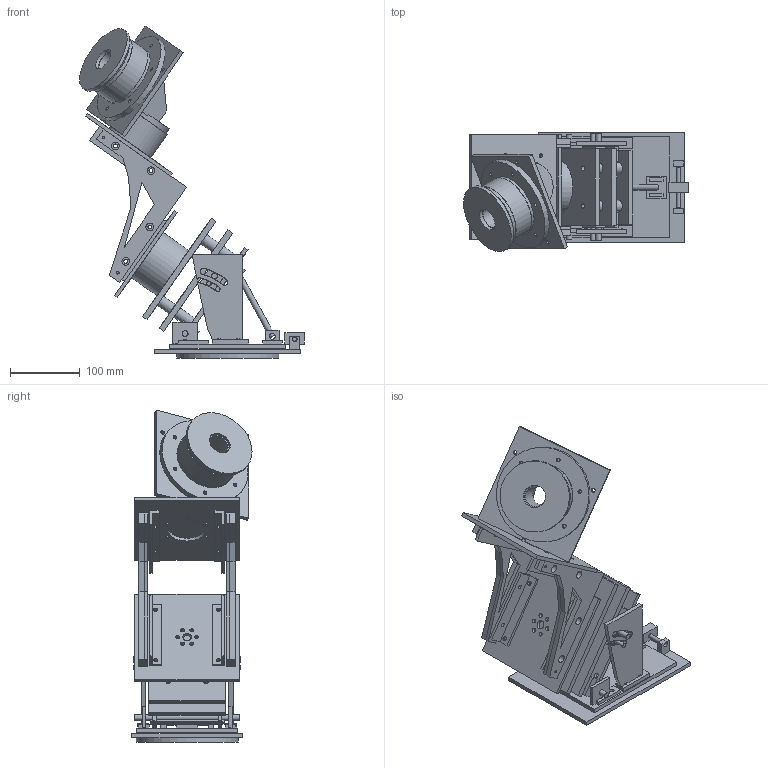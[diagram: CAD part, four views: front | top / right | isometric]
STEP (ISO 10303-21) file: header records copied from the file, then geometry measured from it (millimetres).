
FILE_DESCRIPTION(('Open CASCADE Model'),'2;1');
FILE_NAME('Open CASCADE Shape Model','2026-10-21T13:45:27',('Author'),( 'Open CASCADE'),'Open CASCADE STEP processor 7.9','Open CASCADE 7.9' ,'Unknown');
FILE_SCHEMA(('AUTOMOTIVE_DESIGN { 1 0 10303 214 1 1 1 1 }'));
Length unit declared in the file: millimetre
Products named in the file (53): V17_3AXIS_NSK7008AWDB_INTEGRATION_LAYOUT_NO_LOAD_NO_POWER; v05_hinge_lower_LEFT_METAL; v05_hinge_lower_RIGHT_METAL; v05_lower_jack_CLEVIS_METAL; v05_hinge_M8_PIN_METAL_REFERENCE; v05_altitude_M8_JACK_METAL_REFERENCE; v05_az_push_screw_-1_METAL_REFERENCE; v05_az_push_screw_1_METAL_REFERENCE; TRIPOD_FIXED_MAIN_BASE; v06_az_deck_WITH_LOCK_M6_HOLES_METAL; v06_tripod_PCD62_M10_GENERIC_METAL; v06_lock_sector_LEFT_METAL; v06_upper_lock_lug_LEFT_METAL; v06_M8_clamp_pin_LEFT_METAL_ENVELOPE; v06_M6_stop_pin_LEFT_METAL_ENVELOPE; v06_lock_sector_RIGHT_METAL; v06_upper_lock_lug_RIGHT_METAL; v06_M8_clamp_pin_RIGHT_METAL_ENVELOPE; v06_M6_stop_pin_RIGHT_METAL_ENVELOPE; v07_wedge_RA_STATOR_BASE_METAL; v07_WEDGE_REPLACEMENT_TOP_DECK_METAL; v07_RA_STATOR_REAR_FLANGE_METAL; v07_RA_RISER_1_METAL; v07_RA_LOWER_POST_1_METAL; v07_RA_RISER_2_METAL; v07_RA_LOWER_POST_2_METAL; v07_RA_RISER_3_METAL; v07_RA_LOWER_POST_3_METAL; v07_RA_RISER_4_METAL; v07_RA_LOWER_POST_4_METAL; RA_HARMONIC_GEARBOX_ENVELOPE_NOT_PURCHASED; v04_ra_output_plate_METAL; v04_dec_rear_plate_METAL; v04_left_side_web_METAL; v04_right_side_web_METAL; v04_left_ra_angle_METAL; v04_right_ra_angle_METAL; v04_left_dec_angle_METAL; v04_right_dec_angle_METAL; DEC_HARMONIC_GEARBOX_ENVELOPE_NOT_PURCHASED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
Assembly tree (52 placements, depth 2):
  V17_3AXIS_NSK7008AWDB_INTEGRATION_LAYOUT_NO_LOAD_NO_POWER
    v05_hinge_lower_LEFT_METAL
    v05_hinge_lower_RIGHT_METAL
    v05_lower_jack_CLEVIS_METAL
    v05_hinge_M8_PIN_METAL_REFERENCE
    v05_altitude_M8_JACK_METAL_REFERENCE
    v05_az_push_screw_-1_METAL_REFERENCE
    v05_az_push_screw_1_METAL_REFERENCE
    TRIPOD_FIXED_MAIN_BASE
    v06_az_deck_WITH_LOCK_M6_HOLES_METAL
    v06_tripod_PCD62_M10_GENERIC_METAL
    v06_lock_sector_LEFT_METAL
    v06_upper_lock_lug_LEFT_METAL
    v06_M8_clamp_pin_LEFT_METAL_ENVELOPE
    v06_M6_stop_pin_LEFT_METAL_ENVELOPE
    v06_lock_sector_RIGHT_METAL
    v06_upper_lock_lug_RIGHT_METAL
    v06_M8_clamp_pin_RIGHT_METAL_ENVELOPE
    v06_M6_stop_pin_RIGHT_METAL_ENVELOPE
    v07_wedge_RA_STATOR_BASE_METAL
    v07_WEDGE_REPLACEMENT_TOP_DECK_METAL
    v07_RA_STATOR_REAR_FLANGE_METAL
    v07_RA_RISER_1_METAL
    v07_RA_LOWER_POST_1_METAL
    v07_RA_RISER_2_METAL
    v07_RA_LOWER_POST_2_METAL
    v07_RA_RISER_3_METAL
    v07_RA_LOWER_POST_3_METAL
    v07_RA_RISER_4_METAL
    v07_RA_LOWER_POST_4_METAL
    RA_HARMONIC_GEARBOX_ENVELOPE_NOT_PURCHASED
    v04_ra_output_plate_METAL
    v04_dec_rear_plate_METAL
    v04_left_side_web_METAL
    v04_right_side_web_METAL
    v04_left_ra_angle_METAL
    v04_right_ra_angle_METAL
    v04_left_dec_angle_METAL
    v04_right_dec_angle_METAL
    DEC_HARMONIC_GEARBOX_ENVELOPE_NOT_PURCHASED
    v04_cheek_left_PRINT_FLAT_ASSEMBLY_POSITION
    v04_cheek_right_PRINT_FLAT_ASSEMBLY_POSITION
    v11_DEC_OUTPUT_TO_ROT_CONTINUOUS_METAL_BRIDGE_UNQUALIFIED
    v17_METAL_PCD110_TO_PCD80_BRIDGE_ADAPTER_UNQUALIFIED
    v17_V16_STATOR_METAL_68_2_REFERENCE_BORE_NOT_FIT
    v17_V16_LOWER_REMOVABLE_METAL_OUTER_RING_CAP
    v17_V16_UPPER_REMOVABLE_METAL_OUTER_RING_CAP
    v17_V16_NSK_7008AWDB_RING_1_OEM_EXTERNAL_ENVELOPE_ONLY
    v17_V16_NSK_7008AWDB_RING_2_OEM_EXTERNAL_ENVELOPE_ONLY
    v17_V16_HOLLOW_METAL_SPINDLE_WITH_INTEGRAL_48_SHOULDER_NO_TOLERANCE
    v17_V16_LOCKNUT_ENVELOPE_NO_THREAD_OR_PRELOAD
    v17_V16_FLAT_ANTI_LOOSENING_WASHER_PLACEHOLDER_NO_KEY
    v17_V16_CAMERA_FIXTURE_INTERFACE_BLANK_NO_CLAMP
Bounding box: 322.34 x 172.13 x 475.69 mm (x, y, z)
Volume: 2373946.5 mm3; surface area: 814017.2 mm2
Topology: 52 solids, 52 shells, 1392 faces, 3918 edges, 2611 vertices
Faces by surface type: plane 1151, cylinder 241
Full cylindrical faces by diameter (mm): 3.3 x4, 3.6 x4, 4.5 x42, 5.5 x20, 5.6 x32, 6 x4, 6.5 x3, 6.6 x47, 7 x2, 8 x4, 8.5 x8, 8.6 x2, 10 x1, 10.2 x2, 10.5 x3, 11 x8, 12 x1, 16 x8, 30 x1, 33 x1, 40 x3, 40.2 x2, 48 x1, 50 x1, 52 x1, 54 x1, 58 x2, 60 x2, 64 x1, 68 x3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
Entity records: 95140 total; most frequent: CARTESIAN_POINT 21146, DIRECTION 11471, ORIENTED_EDGE 7836, PCURVE 7836, DEFINITIONAL_REPRESENTATION 7836, LINE 7326, VECTOR 7326, EDGE_CURVE 3918
